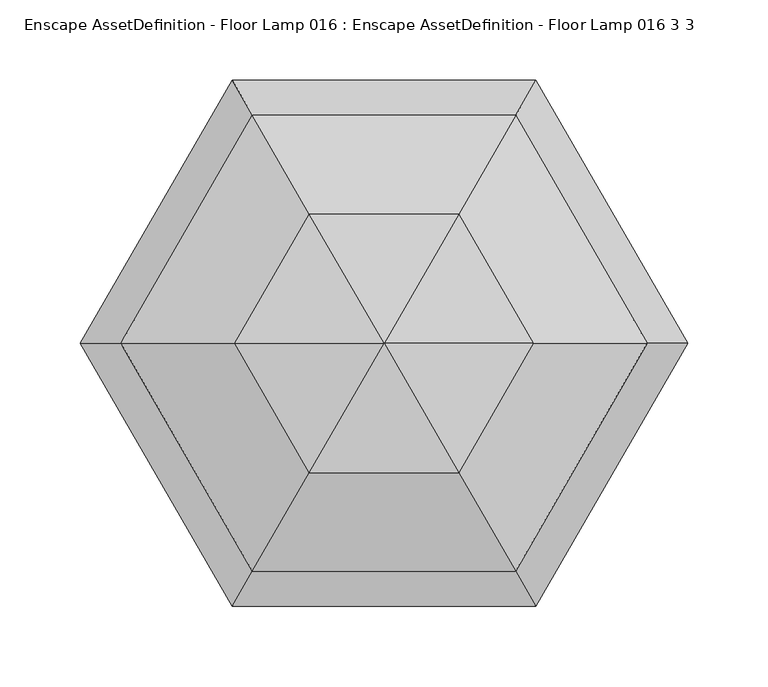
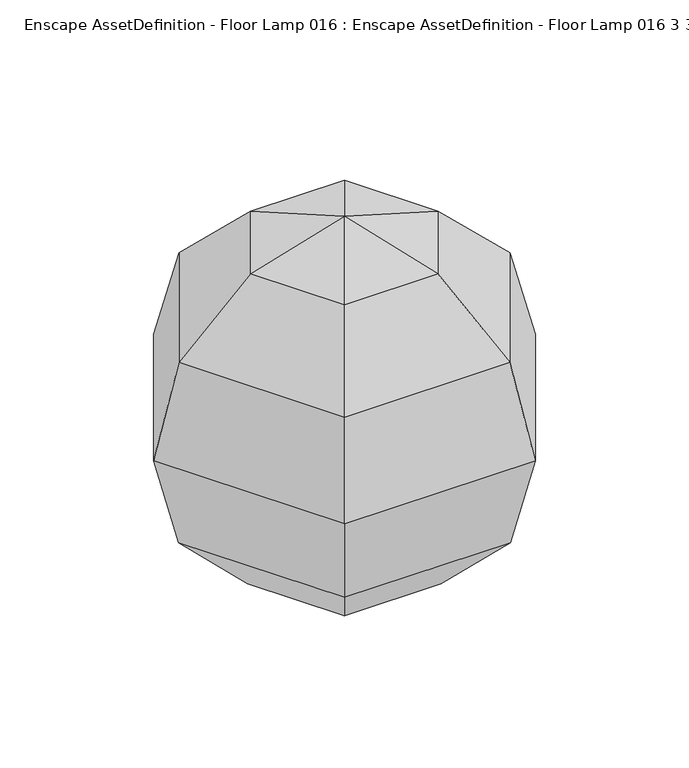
"""IFC4 building model written with IfcOpenShell, lengths in millimetres: geographic element geometry, Enscape AssetDefinition - Floor Lamp 016 : Enscape AssetDefinition - Floor Lamp 016 3 3."""

from ifc_helpers import new_model, si_unit, origin, place, context, project, spatial, triangles, source, transform, mapped, element, save


def enscape_assetdefinition_floor_lamp_016_enscape_9e8934fe(model_context):
    return source(origin(), model_context, "Body", "Tessellation", [
        triangles([(-81.8498368, -141.767782, 254.9246831), (-163.699274, 0.0, 254.9246831), (-188.6706059, 0.0, 160.7741436), (-81.8494462, 141.767782, 254.9246831), (0.0, 0.0, 350.0000027), (-92.7288512, 0.0, 322.6790322), (-46.3646254, -80.3054998, 322.6790322), (-46.3642303, 80.3054998, 322.6790322), (-94.3351122, 163.3936785, 160.7741436), (-47.8351434, 82.8528007, -0.2845771), (-82.0145433, 142.0535748, 66.6323064), (-95.6702868, 0.0, -0.2845771), (82.0145433, 142.0535748, 66.6323064), (94.3355119, 163.3936785, 160.7741436), (47.8351434, 82.8528007, -0.2845771), (188.6706059, 0.0, 160.7741436), (47.8351434, -82.8528007, -0.2845771), (-164.0294864, 0.0, 66.6323064), (-47.8351434, -82.8528007, -0.2845771), (164.0294864, 0.0, 66.6323064), (82.0145433, -142.0535748, 66.6323064), (95.6702868, 0.0, -0.2845771), (81.8498368, 141.767782, 254.9246831), (-94.3355119, -163.3936785, 160.7741436), (94.3351122, -163.3936785, 160.7741436), (-82.0149521, -142.0535748, 66.6323064), (81.8494462, -141.767782, 254.9246831), (92.7288512, 0.0, 322.6790322), (163.699274, 0.0, 254.9246831), (46.3646254, 80.3054998, 322.6790322), (46.3642303, -80.3054998, 322.6790322)], [[5, 7, 31], [1, 31, 7], [5, 31, 28], [5, 30, 8], [5, 28, 30], [23, 8, 30], [29, 23, 30], [29, 30, 28], [27, 29, 28], [1, 27, 31], [27, 28, 31], [24, 27, 1], [18, 26, 24], [18, 19, 26], [26, 19, 17], [21, 17, 22], [26, 17, 21], [26, 21, 25], [24, 25, 27], [26, 25, 24], [25, 29, 27], [25, 16, 29], [16, 23, 29], [25, 21, 20], [21, 22, 20], [25, 20, 16], [15, 22, 17], [20, 22, 15], [17, 19, 12], [18, 12, 19], [12, 15, 17], [12, 10, 15], [13, 15, 10], [16, 20, 13], [20, 15, 13], [16, 14, 23], [16, 13, 14], [11, 10, 12], [14, 13, 11], [11, 12, 18], [13, 10, 11], [11, 18, 3], [18, 24, 3], [11, 3, 9], [14, 11, 9], [14, 9, 4], [23, 4, 8], [14, 4, 23], [5, 8, 6], [5, 6, 7], [4, 6, 8], [9, 3, 2], [2, 3, 24], [4, 2, 6], [2, 1, 7], [9, 2, 4], [2, 24, 1], [2, 7, 6]]),
    ])


if __name__ == "__main__":
    model = new_model("IFC4")
    model_context = context("Model", 3, world=origin())
    ifc_project = project(units=[si_unit("LENGTHUNIT", "METRE", prefix="MILLI")], contexts=[model_context])
    site = spatial("IfcSite", under=ifc_project)
    building = spatial("IfcBuilding", under=site)
    placement = place(None, origin())
    enscape_assetdefinition_floor_lamp_016_enscape_shape = enscape_assetdefinition_floor_lamp_016_enscape_9e8934fe(model_context)
    element("IfcGeographicElement", 1, ObjectType="Enscape AssetDefinition - Floor Lamp 016 : Enscape AssetDefinition - Floor Lamp 016 3 3", at=placement, inside=building, context=model_context, shape_type="MappedRepresentation", body=[
        mapped(enscape_assetdefinition_floor_lamp_016_enscape_shape, transform((0.0, 0.0, 0.0), x_axis=(1.0, 0.0, 0.0), y_axis=(0.0, 1.0, 0.0), z_axis=(0.0, 0.0, 1.0))),
    ])
    save(model, "model.ifc")
